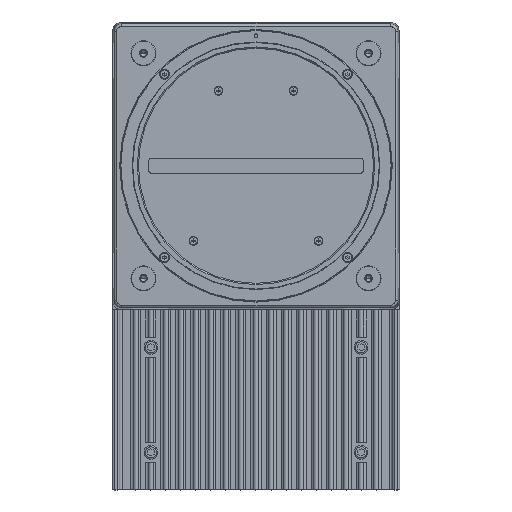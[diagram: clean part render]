
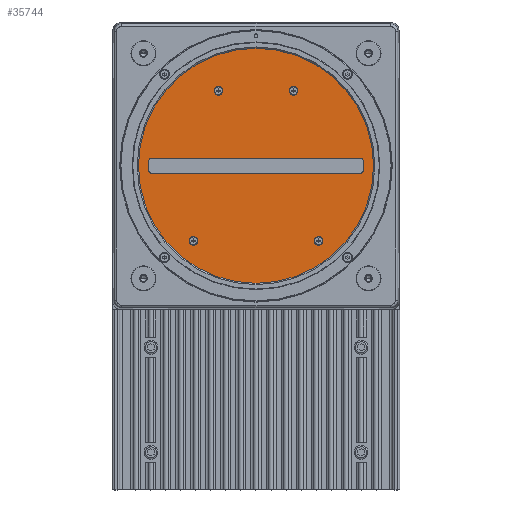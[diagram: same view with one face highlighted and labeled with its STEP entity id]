
A CAD part, top view. The second image highlights one B-rep face of the part: STEP entity #35744.
In plain terms, the highlighted planar face has unit normal (0, 0, 1).
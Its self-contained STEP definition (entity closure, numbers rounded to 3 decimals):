
#8133=CARTESIAN_POINT('',(0.,0.,-5.209));
#8134=DIRECTION('',(0.,0.,-1.));
#8135=DIRECTION('',(0.,-1.,0.));
#8136=AXIS2_PLACEMENT_3D('',#8133,#8134,#8135);
#8138=CARTESIAN_POINT('',(0.,0.,-5.209));
#8139=DIRECTION('',(0.,0.,-1.));
#8140=DIRECTION('',(0.,1.,0.));
#8141=AXIS2_PLACEMENT_3D('',#8138,#8139,#8140);
#8143=CARTESIAN_POINT('',(-41.8,2.,-5.209));
#8144=DIRECTION('',(0.,0.,1.));
#8145=DIRECTION('',(0.,1.,0.));
#8146=AXIS2_PLACEMENT_3D('',#8143,#8144,#8145);
#8148=CARTESIAN_POINT('',(-41.8,-2.,-5.209));
#8149=DIRECTION('',(0.,0.,1.));
#8150=DIRECTION('',(-1.,0.,0.));
#8151=AXIS2_PLACEMENT_3D('',#8148,#8149,#8150);
#8153=CARTESIAN_POINT('',(41.8,-2.,-5.209));
#8154=DIRECTION('',(0.,0.,1.));
#8155=DIRECTION('',(0.,-1.,0.));
#8156=AXIS2_PLACEMENT_3D('',#8153,#8154,#8155);
#8158=CARTESIAN_POINT('',(41.8,2.,-5.209));
#8159=DIRECTION('',(0.,0.,1.));
#8160=DIRECTION('',(1.,0.,0.));
#8161=AXIS2_PLACEMENT_3D('',#8158,#8159,#8160);
#8163=CARTESIAN_POINT('',(-15.,30.,-5.209));
#8164=DIRECTION('',(0.,0.,-1.));
#8165=DIRECTION('',(0.,1.,0.));
#8166=AXIS2_PLACEMENT_3D('',#8163,#8164,#8165);
#8168=CARTESIAN_POINT('',(-15.,30.,-5.209));
#8169=DIRECTION('',(0.,0.,-1.));
#8170=DIRECTION('',(0.,-1.,0.));
#8171=AXIS2_PLACEMENT_3D('',#8168,#8169,#8170);
#8173=CARTESIAN_POINT('',(-25.,-30.,-5.209));
#8174=DIRECTION('',(0.,0.,-1.));
#8175=DIRECTION('',(0.,1.,0.));
#8176=AXIS2_PLACEMENT_3D('',#8173,#8174,#8175);
#8178=CARTESIAN_POINT('',(-25.,-30.,-5.209));
#8179=DIRECTION('',(0.,0.,-1.));
#8180=DIRECTION('',(0.,-1.,0.));
#8181=AXIS2_PLACEMENT_3D('',#8178,#8179,#8180);
#8183=CARTESIAN_POINT('',(15.,30.,-5.209));
#8184=DIRECTION('',(0.,0.,-1.));
#8185=DIRECTION('',(0.,1.,0.));
#8186=AXIS2_PLACEMENT_3D('',#8183,#8184,#8185);
#8188=CARTESIAN_POINT('',(15.,30.,-5.209));
#8189=DIRECTION('',(0.,0.,-1.));
#8190=DIRECTION('',(0.,-1.,0.));
#8191=AXIS2_PLACEMENT_3D('',#8188,#8189,#8190);
#8193=CARTESIAN_POINT('',(25.,-30.,-5.209));
#8194=DIRECTION('',(0.,0.,-1.));
#8195=DIRECTION('',(0.,1.,0.));
#8196=AXIS2_PLACEMENT_3D('',#8193,#8194,#8195);
#8198=CARTESIAN_POINT('',(25.,-30.,-5.209));
#8199=DIRECTION('',(0.,0.,-1.));
#8200=DIRECTION('',(0.,-1.,0.));
#8201=AXIS2_PLACEMENT_3D('',#8198,#8199,#8200);
#8203=DIRECTION('',(1.,0.,0.));
#8204=VECTOR('',#8203,83.6);
#8205=CARTESIAN_POINT('',(-41.8,3.,-5.209));
#8206=LINE('',#8205,#8204);
#8243=DIRECTION('',(-1.,0.,0.));
#8244=VECTOR('',#8243,83.6);
#8245=CARTESIAN_POINT('',(41.8,-3.,-5.209));
#8246=LINE('',#8245,#8244);
#8259=DIRECTION('',(0.,-1.,0.));
#8260=VECTOR('',#8259,4.);
#8261=CARTESIAN_POINT('',(42.8,2.,-5.209));
#8262=LINE('',#8261,#8260);
#8275=DIRECTION('',(0.,1.,0.));
#8276=VECTOR('',#8275,4.);
#8277=CARTESIAN_POINT('',(-42.8,-2.,-5.209));
#8278=LINE('',#8277,#8276);
#18354=CARTESIAN_POINT('',(0.,-48.,-5.209));
#18355=VERTEX_POINT('',#18354);
#18356=CARTESIAN_POINT('',(0.,48.,-5.209));
#18357=VERTEX_POINT('',#18356);
#18358=CARTESIAN_POINT('',(-41.8,3.,-5.209));
#18359=CARTESIAN_POINT('',(-42.8,2.,-5.209));
#18360=VERTEX_POINT('',#18358);
#18361=VERTEX_POINT('',#18359);
#18362=CARTESIAN_POINT('',(-42.8,-2.,-5.209));
#18363=CARTESIAN_POINT('',(-41.8,-3.,-5.209));
#18364=VERTEX_POINT('',#18362);
#18365=VERTEX_POINT('',#18363);
#18366=CARTESIAN_POINT('',(41.8,-3.,-5.209));
#18367=CARTESIAN_POINT('',(42.8,-2.,-5.209));
#18368=VERTEX_POINT('',#18366);
#18369=VERTEX_POINT('',#18367);
#18370=CARTESIAN_POINT('',(42.8,2.,-5.209));
#18371=CARTESIAN_POINT('',(41.8,3.,-5.209));
#18372=VERTEX_POINT('',#18370);
#18373=VERTEX_POINT('',#18371);
#20108=CARTESIAN_POINT('',(-15.,31.75,-5.209));
#20109=CARTESIAN_POINT('',(-15.,28.25,-5.209));
#20110=VERTEX_POINT('',#20108);
#20111=VERTEX_POINT('',#20109);
#20116=CARTESIAN_POINT('',(-25.,-28.25,-5.209));
#20117=CARTESIAN_POINT('',(-25.,-31.75,-5.209));
#20118=VERTEX_POINT('',#20116);
#20119=VERTEX_POINT('',#20117);
#20124=CARTESIAN_POINT('',(15.,31.75,-5.209));
#20125=CARTESIAN_POINT('',(15.,28.25,-5.209));
#20126=VERTEX_POINT('',#20124);
#20127=VERTEX_POINT('',#20125);
#20132=CARTESIAN_POINT('',(25.,-28.25,-5.209));
#20133=CARTESIAN_POINT('',(25.,-31.75,-5.209));
#20134=VERTEX_POINT('',#20132);
#20135=VERTEX_POINT('',#20133);
#35693=CARTESIAN_POINT('',(0.,0.,-5.209));
#35694=DIRECTION('',(0.,0.,1.));
#35695=DIRECTION('',(0.,-1.,0.));
#35696=AXIS2_PLACEMENT_3D('',#35693,#35694,#35695);
#35697=PLANE('',#35696);
#35698=ORIENTED_EDGE('',*,*,#35679,.T.);
#35699=ORIENTED_EDGE('',*,*,#35661,.T.);
#35700=EDGE_LOOP('',(#35698,#35699));
#35701=FACE_OUTER_BOUND('',#35700,.F.);
#35703=ORIENTED_EDGE('',*,*,#35702,.F.);
#35705=ORIENTED_EDGE('',*,*,#35704,.T.);
#35707=ORIENTED_EDGE('',*,*,#35706,.F.);
#35709=ORIENTED_EDGE('',*,*,#35708,.T.);
#35711=ORIENTED_EDGE('',*,*,#35710,.F.);
#35713=ORIENTED_EDGE('',*,*,#35712,.T.);
#35715=ORIENTED_EDGE('',*,*,#35714,.F.);
#35717=ORIENTED_EDGE('',*,*,#35716,.T.);
#35718=EDGE_LOOP('',(#35703,#35705,#35707,#35709,#35711,#35713,#35715,#35717));
#35719=FACE_BOUND('',#35718,.F.);
#35721=ORIENTED_EDGE('',*,*,#35720,.F.);
#35723=ORIENTED_EDGE('',*,*,#35722,.F.);
#35724=EDGE_LOOP('',(#35721,#35723));
#35725=FACE_BOUND('',#35724,.F.);
#35727=ORIENTED_EDGE('',*,*,#35726,.F.);
#35729=ORIENTED_EDGE('',*,*,#35728,.F.);
#35730=EDGE_LOOP('',(#35727,#35729));
#35731=FACE_BOUND('',#35730,.F.);
#35733=ORIENTED_EDGE('',*,*,#35732,.F.);
#35735=ORIENTED_EDGE('',*,*,#35734,.F.);
#35736=EDGE_LOOP('',(#35733,#35735));
#35737=FACE_BOUND('',#35736,.F.);
#35739=ORIENTED_EDGE('',*,*,#35738,.F.);
#35741=ORIENTED_EDGE('',*,*,#35740,.F.);
#35742=EDGE_LOOP('',(#35739,#35741));
#35743=FACE_BOUND('',#35742,.F.);
#8137=CIRCLE('',#8136,48.);
#8142=CIRCLE('',#8141,48.);
#8147=CIRCLE('',#8146,1.);
#8152=CIRCLE('',#8151,1.);
#8157=CIRCLE('',#8156,1.);
#8162=CIRCLE('',#8161,1.);
#8167=CIRCLE('',#8166,1.75);
#8172=CIRCLE('',#8171,1.75);
#8177=CIRCLE('',#8176,1.75);
#8182=CIRCLE('',#8181,1.75);
#8187=CIRCLE('',#8186,1.75);
#8192=CIRCLE('',#8191,1.75);
#8197=CIRCLE('',#8196,1.75);
#8202=CIRCLE('',#8201,1.75);
#35661=EDGE_CURVE('',#18357,#18355,#8142,.T.);
#35679=EDGE_CURVE('',#18355,#18357,#8137,.T.);
#35702=EDGE_CURVE('',#18360,#18373,#8206,.T.);
#35704=EDGE_CURVE('',#18360,#18361,#8147,.T.);
#35706=EDGE_CURVE('',#18364,#18361,#8278,.T.);
#35708=EDGE_CURVE('',#18364,#18365,#8152,.T.);
#35710=EDGE_CURVE('',#18368,#18365,#8246,.T.);
#35712=EDGE_CURVE('',#18368,#18369,#8157,.T.);
#35714=EDGE_CURVE('',#18372,#18369,#8262,.T.);
#35716=EDGE_CURVE('',#18372,#18373,#8162,.T.);
#35720=EDGE_CURVE('',#20110,#20111,#8167,.T.);
#35722=EDGE_CURVE('',#20111,#20110,#8172,.T.);
#35726=EDGE_CURVE('',#20118,#20119,#8177,.T.);
#35728=EDGE_CURVE('',#20119,#20118,#8182,.T.);
#35732=EDGE_CURVE('',#20126,#20127,#8187,.T.);
#35734=EDGE_CURVE('',#20127,#20126,#8192,.T.);
#35738=EDGE_CURVE('',#20134,#20135,#8197,.T.);
#35740=EDGE_CURVE('',#20135,#20134,#8202,.T.);
#35744=ADVANCED_FACE('',(#35701,#35719,#35725,#35731,#35737,#35743),#35697,.T.);
